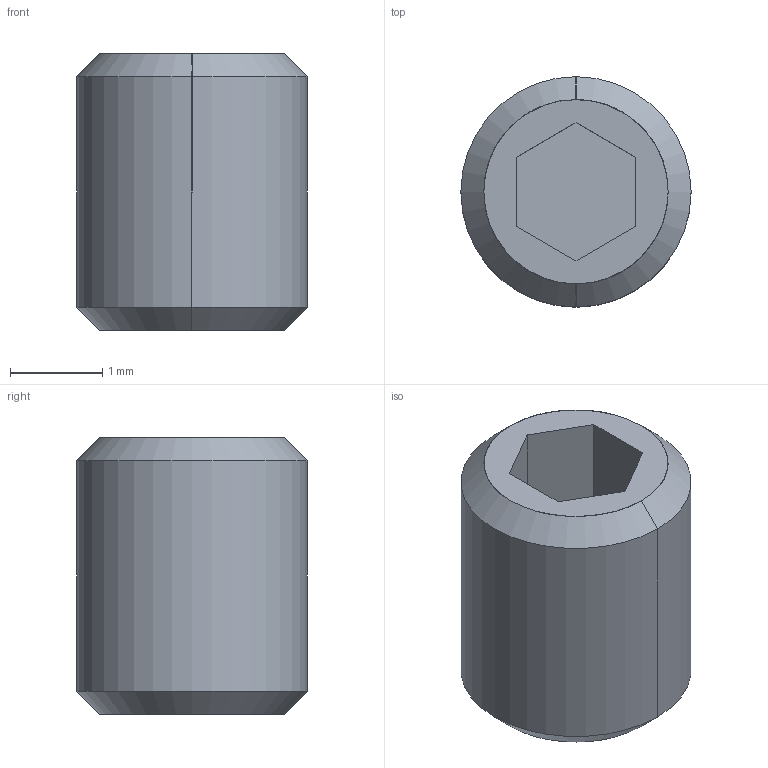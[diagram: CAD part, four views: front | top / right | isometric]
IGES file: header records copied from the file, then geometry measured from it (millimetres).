
Global section: file name: E:\UnigraphicsGraphicData\MISUMI_PRESS-PARTS\IGES\3d_msw2.5_00509_r00.igs; native system: NX V5.0; preprocessor: UGS NX IGES V5.0; author: MISUMI; date: 20110105.161522; units: millimetre
Bounding box: 2.5 x 2.5 x 3 mm (x, y, z)
Surface area: 36.3 mm2 (no closed solid volume)
Topology: 0 solids, 0 shells, 15 faces, 76 edges, 76 vertices
Faces by surface type: bspline 15
